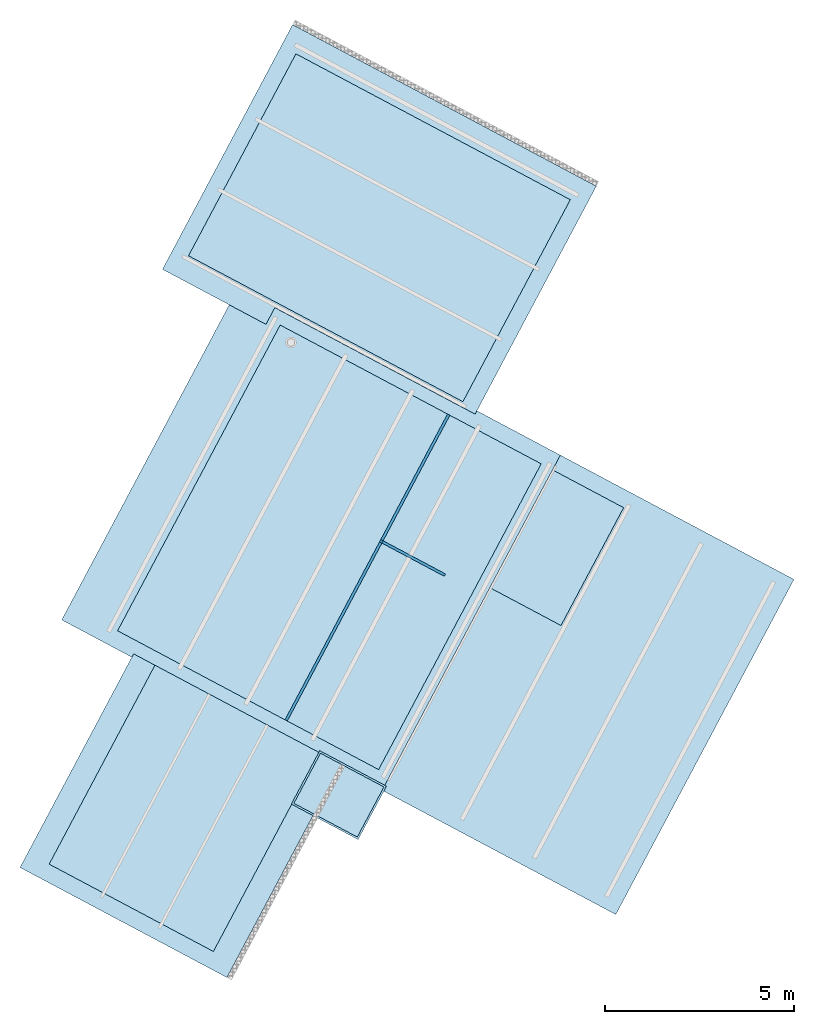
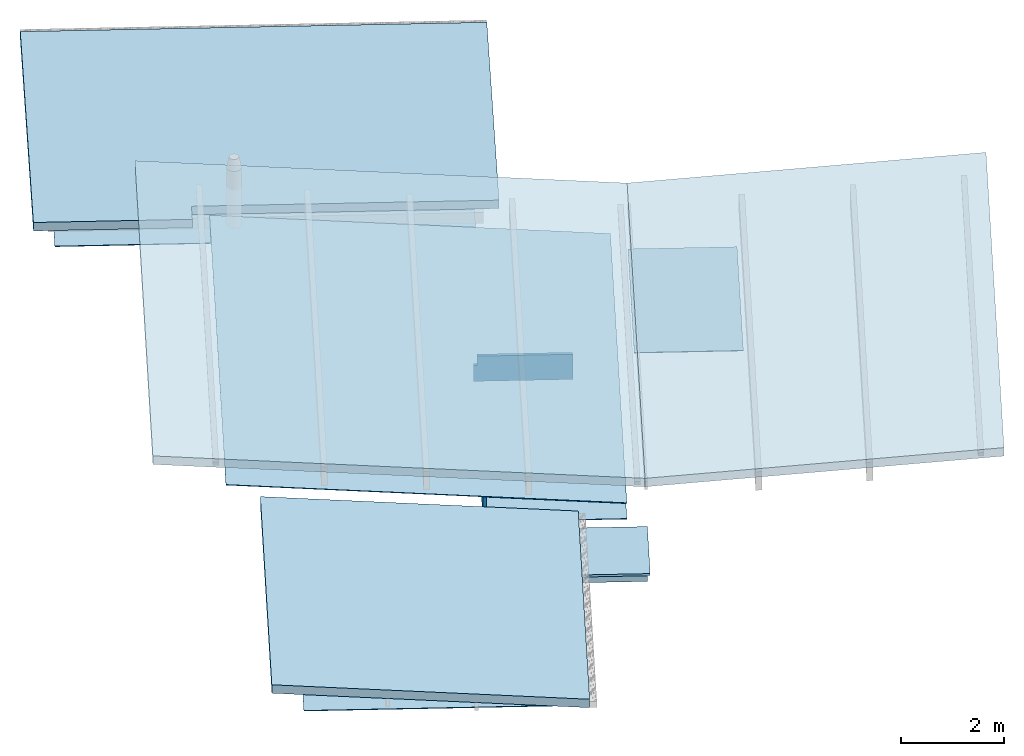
# One storey, part 1 of 4: 11 slabs, 2 walls.
"""IFC2X3 building model written with IfcOpenShell, lengths in metres."""

from ifc_helpers import new_model, entity, si_unit, converted_unit, derived_unit, money_unit, direction, frame, origin_with_axes, place, context, subcontext, project, spatial, polyline, outline, extrude, boolean, faceted_brep, material, layer, layer_set, layer_usage, type_object, element, save


model = new_model("IFC2X3")

# Units and contexts
model_context = context("Model", 3, precision=1e-05, world=origin_with_axes(), true_north=direction((0.0, 1.0)))
body_context = subcontext(model_context, "Body", "Model", "MODEL_VIEW")
ifc_project = project(units=[si_unit("LENGTHUNIT", "METRE"), si_unit("AREAUNIT", "SQUARE_METRE"), si_unit("VOLUMEUNIT", "CUBIC_METRE"), converted_unit("PLANEANGLEUNIT", "DEGREE", entity("IfcPlaneAngleMeasure", 0.0174532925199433), si_unit("PLANEANGLEUNIT", "RADIAN"), dimensions=[0, 0, 0, 0, 0, 0, 0]), money_unit("CHF"), converted_unit("TIMEUNIT", "Year", entity("IfcTimeMeasure", 31557600.0), si_unit("TIMEUNIT", "SECOND"), dimensions=[0, 0, 1, 0, 0, 0, 0]), si_unit("MASSUNIT", "GRAM", prefix="KILO"), si_unit("THERMODYNAMICTEMPERATUREUNIT", "DEGREE_CELSIUS"), si_unit("LUMINOUSINTENSITYUNIT", "LUMEN"), si_unit("ENERGYUNIT", "JOULE", prefix="MEGA"), derived_unit("THERMALCONDUCTANCEUNIT", [(si_unit("POWERUNIT", "WATT"), 1), (si_unit("LENGTHUNIT", "METRE"), -1), (si_unit("THERMODYNAMICTEMPERATUREUNIT", "KELVIN"), -1)]), derived_unit("SPECIFICHEATCAPACITYUNIT", [(si_unit("ENERGYUNIT", "JOULE"), 1), (si_unit("MASSUNIT", "GRAM", prefix="KILO"), -1), (si_unit("THERMODYNAMICTEMPERATUREUNIT", "KELVIN"), -1)]), derived_unit("MASSDENSITYUNIT", [(si_unit("MASSUNIT", "GRAM", prefix="KILO"), 1), (si_unit("VOLUMEUNIT", "CUBIC_METRE"), -1)])], contexts=[model_context])

# Site, building, storey
site_placement = place(None, frame((0.0, 0.0, 0.0), z_axis=(0.0, 0.0, 1.0), x_axis=(-0.4694715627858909, -0.8829475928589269, 0.0)))
site = spatial("IfcSite", under=ifc_project, at=site_placement, Name="Site", CompositionType="ELEMENT")
building_placement = place(site_placement, origin_with_axes())
building = spatial("IfcBuilding", under=site, at=building_placement, Name="Bâtiment", CompositionType="ELEMENT")
storey_placement = place(building_placement, frame((0.0, 0.0, 2.7), z_axis=(0.0, 0.0, 1.0), x_axis=(1.0, 0.0, 0.0)))
storey = spatial("IfcBuildingStorey", under=building, at=storey_placement, Name="toiture", CompositionType="ELEMENT", Elevation=2.7)

# Slabs
ifc_material_1 = material(Name="Hachure vide 3286431593")
ifc_layer_1 = layer(ifc_material_1, 0.015, ventilated="UNKNOWN")
ifc_layer_set_1 = layer_set([ifc_layer_1], Name="Hachure vide 3286431593 0.015")
ifc_layer_usage_1 = layer_usage(ifc_layer_set_1, "AXIS3", "NEGATIVE", 0.015)
slab_type_1 = type_object("IfcSlabType", Name="Hachure vide 3286431593 15", PredefinedType="FLOOR")
slab_1_placement = place(storey_placement, frame((143.5295710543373, -830.63459910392, -0.1850000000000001), z_axis=(0.0, 0.0, 1.0), x_axis=(1.0, 0.0, 0.0)))
element("IfcSlab", 1, at=slab_1_placement, inside=storey, type_object=slab_type_1, material=ifc_layer_usage_1, Name="terre plein", PredefinedType="FLOOR", context=body_context, shape_type="SweptSolid", body=[
    extrude(outline(polyline([(0.0, 0.0), (0.0, -4.919999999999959), (5.960000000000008, -4.919999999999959), (5.960000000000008, 0.0), (0.0, 0.0)])), frame((0.0, 0.0, -0.015), z_axis=(0.0, 0.0, 1.0), x_axis=(1.0, 0.0, 0.0)), (0.0, 0.0, 1.0), 0.015),
])
ifc_layer_usage_2 = layer_usage(ifc_layer_set_1, "AXIS3", "NEGATIVE", 0.015)
slab_2_placement = place(storey_placement, frame((137.5595710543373, -828.6945991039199, -0.1850000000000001), z_axis=(0.0, 0.0, 1.0), x_axis=(1.0, 0.0, 0.0)))
element("IfcSlab", 2, at=slab_2_placement, inside=storey, type_object=slab_type_1, material=ifc_layer_usage_2, Name="terre plein", PredefinedType="FLOOR", context=body_context, shape_type="SweptSolid", body=[
    extrude(outline(polyline([(0.0, 0.0), (0.0, 2.129999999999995), (-3.530000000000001, 2.129999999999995), (-3.530000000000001, 0.0), (0.0, 0.0)])), frame((0.0, 0.0, -0.015), z_axis=(0.0, 0.0, 1.0), x_axis=(1.0, 0.0, 0.0)), (0.0, 0.0, 1.0), 0.015),
])
ifc_layer_usage_3 = layer_usage(ifc_layer_set_1, "AXIS3", "NEGATIVE", 0.015)
slab_3_placement = place(storey_placement, frame((127.4995710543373, -831.63459910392, -0.1850000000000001), z_axis=(0.0, 0.0, 1.0), x_axis=(1.0, 0.0, 0.0)))
element("IfcSlab", 3, at=slab_3_placement, inside=storey, type_object=slab_type_1, material=ifc_layer_usage_3, Name="terre plein", PredefinedType="FLOOR", context=body_context, shape_type="SweptSolid", body=[
    extrude(outline(polyline([(0.0, 0.0), (0.0, -8.219999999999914), (6.049999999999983, -8.219999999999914), (6.049999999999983, 0.0), (0.0, 0.0)])), frame((0.0, 0.0, -0.015), z_axis=(0.0, 0.0, 1.0), x_axis=(1.0, 0.0, 0.0)), (0.0, 0.0, 1.0), 0.015),
])
ifc_layer_usage_4 = layer_usage(ifc_layer_set_1, "AXIS3", "NEGATIVE", 0.015)
slab_4_placement = place(storey_placement, frame((143.1895710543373, -829.03459910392, -0.1850000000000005), z_axis=(0.0, 0.0, 1.0), x_axis=(1.0, 0.0, 0.0)))
element("IfcSlab", 4, at=slab_4_placement, inside=storey, type_object=slab_type_1, material=ifc_layer_usage_4, Name="terre plein", PredefinedType="FLOOR", context=body_context, shape_type="SweptSolid", body=[
    extrude(outline(polyline([(0.0, 0.0), (-9.159999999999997, 0.0), (-9.159999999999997, -2.805789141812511), (0.0, -2.805789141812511), (0.0, 0.0)])), frame((0.0, 0.0, -0.015), z_axis=(0.0, 0.0, 1.0), x_axis=(1.0, 0.0, 0.0)), (0.0, 0.0, 1.0), 0.015),
])
ifc_material_2 = material(Name="Lame d'air 3030760239")
ifc_layer_2 = layer(ifc_material_2, 0.01495222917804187, ventilated="UNKNOWN")
ifc_layer_set_2 = layer_set([ifc_layer_2], Name="Lame d'air 3030760239 0.0149522")
ifc_layer_usage_5 = layer_usage(ifc_layer_set_2, "AXIS3", "NEGATIVE", 0.01495222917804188)
slab_type_2 = type_object("IfcSlabType", Name="Lame d'air 3030760239 15", PredefinedType="ROOF")
slab_5_placement = place(storey_placement, frame((144.2695710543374, -829.03459910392, 0.1744000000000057), z_axis=(0.0, 0.0, 1.0), x_axis=(1.0, 0.0, 0.0)))
element("IfcSlab", 5, at=slab_5_placement, inside=storey, type_object=slab_type_2, material=ifc_layer_usage_5, Name="Tpan-09", PredefinedType="ROOF", context=body_context, shape_type="SweptSolid", body=[
    extrude(outline(polyline([(-1.080000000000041, 0.0), (-10.24000000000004, 0.0), (-10.24000000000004, -7.84498408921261), (-1.080000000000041, -7.84498408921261), (-1.080000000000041, 0.0)])), frame((0.0, 0.0, 0.0), z_axis=(0.0, 0.07974522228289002, 0.9968152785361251), x_axis=(1.0, 0.0, 0.0)), (0.0, -0.07974522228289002, 0.9968152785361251), 0.015),
])
ifc_layer_3 = layer(ifc_material_2, 0.2, ventilated="UNKNOWN")
ifc_layer_set_3 = layer_set([ifc_layer_3], Name="Lame d'air 3030760239 0.2")
ifc_layer_usage_6 = layer_usage(ifc_layer_set_3, "AXIS3", "NEGATIVE", 0.2)
slab_type_3 = type_object("IfcSlabType", Name="Lame d'air 3030760239 200", PredefinedType="ROOF")
slab_6_placement = place(storey_placement, frame((149.8295710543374, -830.29459910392, 0.08000000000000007), z_axis=(0.0, 0.0, 1.0), x_axis=(1.0, 0.0, 0.0)))
element("IfcSlab", 6, at=slab_6_placement, inside=storey, type_object=slab_type_3, material=ifc_layer_usage_6, Name="Tpan-09", PredefinedType="ROOF", context=body_context, shape_type="SweptSolid", body=[
    extrude(outline(polyline([(0.09999999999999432, 0.3009584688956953), (-6.300000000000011, 0.3009584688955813), (-6.300000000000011, -5.918849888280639), (0.09999999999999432, -5.918849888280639), (0.09999999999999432, 0.3009584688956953)])), frame((0.0, 0.0, 0.0), z_axis=(0.0, 0.07974522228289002, 0.9968152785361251), x_axis=(1.0, 0.0, 0.0)), (0.0, -0.07974522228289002, 0.9968152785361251), 0.2006389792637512),
])
ifc_layer_usage_7 = layer_usage(ifc_layer_set_3, "AXIS3", "NEGATIVE", 0.2)
slab_7_placement = place(storey_placement, frame((127.2252789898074, -831.3171641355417, 0.08000000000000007), z_axis=(0.0, 0.0, 1.0), x_axis=(0.0, 1.0, 0.0)))
element("IfcSlab", 7, at=slab_7_placement, inside=storey, type_object=slab_type_3, material=ifc_layer_usage_7, Name="Tpan-09", PredefinedType="ROOF", context=body_context, shape_type="SweptSolid", body=[
    extrude(outline(polyline([(0.1225650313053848, 0.3668683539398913), (-8.97743240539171, 0.3675945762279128), (-8.977435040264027, -6.986542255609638), (-5.877434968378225, -6.986542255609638), (-5.877434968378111, -6.48494480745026), (0.1225650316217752, -6.484944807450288), (0.1225650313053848, 0.3668683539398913)])), frame((0.0, 0.0, 0.0), z_axis=(0.0, 0.07974522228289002, 0.9968152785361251), x_axis=(1.0, 0.0, 0.0)), (0.0, -0.07974522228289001, 0.9968152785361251), 0.2006389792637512),
])
ifc_layer_usage_8 = layer_usage(ifc_layer_set_3, "AXIS3", "NEGATIVE", 0.2)
slab_8_placement = place(storey_placement, frame((147.4380898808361, -827.7945991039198, 0.9439999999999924), z_axis=(0.0, 0.0, 1.0), x_axis=(-1.0, 0.0, 0.0)))
element("IfcSlab", 8, at=slab_8_placement, inside=storey, type_object=slab_type_3, material=ifc_layer_usage_8, Name="Tpan-09", PredefinedType="ROOF", context=body_context, shape_type="SweptSolid", body=[
    extrude(outline(polyline([(3.808518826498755, 0.9028754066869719), (3.808518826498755, -6.11948886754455), (13.84851882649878, -6.11948886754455), (13.84851882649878, 0.9028754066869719), (3.808518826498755, 0.9028754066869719)])), frame((0.0, 0.0, 0.0), z_axis=(0.0, 0.07974522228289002, 0.9968152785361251), x_axis=(1.0, 0.0, 0.0)), (0.0, -0.07974522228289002, 0.9968152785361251), 0.2006389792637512),
])
ifc_layer_4 = layer(ifc_material_2, 0.2003598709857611, ventilated="UNKNOWN")
ifc_layer_set_4 = layer_set([ifc_layer_4], Name="Lame d'air 3030760239 0.20036")
ifc_layer_usage_9 = layer_usage(ifc_layer_set_4, "AXIS3", "NEGATIVE", 0.2003598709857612)
slab_9_placement = place(storey_placement, frame((143.8295710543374, -828.79459910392, 0.8799999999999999), z_axis=(0.0, 0.0, 1.0), x_axis=(1.0, 0.0, 0.0)))
element("IfcSlab", 9, at=slab_9_placement, inside=storey, type_object=slab_type_3, material=ifc_layer_usage_9, Name="Tpan-09", PredefinedType="ROOF", context=body_context, shape_type="SweptSolid", body=[
    extrude(outline(polyline([(-0.2000000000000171, 0.1003194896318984), (-10.24000000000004, 0.1003194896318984), (-10.24000000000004, -9.53035151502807), (-0.2000000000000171, -9.53035151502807), (-0.2000000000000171, 0.1003194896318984)])), frame((0.0, 0.0, 0.0), z_axis=(0.0, 0.07974522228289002, 0.9968152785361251), x_axis=(1.0, 0.0, 0.0)), (0.0, -0.07974522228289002, 0.9968152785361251), 0.201),
])
ifc_material_3 = material(Name="Isolation 288766638")
ifc_layer_5 = layer(ifc_material_3, 0.04999999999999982, ventilated="UNKNOWN")
ifc_layer_set_5 = layer_set([ifc_layer_5], Name="Isolation 288766638 0.05")
ifc_layer_usage_10 = layer_usage(ifc_layer_set_5, "AXIS3", "NEGATIVE", 0.04999999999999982)
slab_type_4 = type_object("IfcSlabType", Name="Isolation 288766638 50", PredefinedType="FLOOR")
slab_10_placement = place(storey_placement, frame((143.4795710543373, -830.64459910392, -0.1800000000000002), z_axis=(0.0, 0.0, 1.0), x_axis=(1.0, 0.0, 0.0)))
element("IfcSlab", 10, at=slab_10_placement, inside=storey, type_object=slab_type_4, material=ifc_layer_usage_10, Name="terre plein", PredefinedType="FLOOR", context=body_context, shape_type="SweptSolid", body=[
    extrude(outline(polyline([(0.0, 0.0), (1.600000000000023, 0.0), (1.600000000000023, 2.0), (0.0, 2.0), (0.0, 0.0)])), frame((0.0, 0.0, -0.04999999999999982), z_axis=(0.0, 0.0, 1.0), x_axis=(1.0, 0.0, 0.0)), (0.0, 0.0, 1.0), 0.04999999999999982),
])
ifc_layer_6 = layer(ifc_material_3, 0.2000000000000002, ventilated="UNKNOWN")
ifc_layer_set_6 = layer_set([ifc_layer_6], Name="Isolation 288766638 0.2")
ifc_layer_usage_11 = layer_usage(ifc_layer_set_6, "AXIS3", "NEGATIVE", 0.2000000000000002)
slab_type_5 = type_object("IfcSlabType", Name="Isolation 288766638 200", PredefinedType="FLOOR")
slab_11_placement = place(storey_placement, frame((143.5295710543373, -830.5945991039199, -0.2000000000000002), z_axis=(0.0, 0.0, 1.0), x_axis=(1.0, 0.0, 0.0)))
element("IfcSlab", 11, at=slab_11_placement, inside=storey, type_object=slab_type_5, material=ifc_layer_usage_11, Name="terre plein", PredefinedType="FLOOR", context=body_context, shape_type="SweptSolid", body=[
    extrude(outline(polyline([(0.0, 0.0), (1.5, 0.0), (1.5, 1.899999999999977), (0.0, 1.899999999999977), (0.0, 0.0)])), frame((0.0, 0.0, -0.2000000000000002), z_axis=(0.0, 0.0, 1.0), x_axis=(1.0, 0.0, 0.0)), (0.0, 0.0, 1.0), 0.2000000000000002),
])

# Walls
ifc_material_4 = material(Name="Isolation 269295175")
ifc_layer_7 = layer(ifc_material_4, 0.07, ventilated="UNKNOWN")
ifc_layer_set_7 = layer_set([ifc_layer_7], Name="CLOISON 7 0024849982")
ifc_layer_usage_12 = layer_usage(ifc_layer_set_7, "AXIS2", "POSITIVE", 0.0)
wall_type = type_object("IfcWallType", Name="CLOISON 7 0024849982 70", PredefinedType="NOTDEFINED")
wall_1_placement = place(storey_placement, frame((134.0295710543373, -831.8403882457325, -0.2000000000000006), z_axis=(0.0, 0.0, 1.0), x_axis=(1.0, 0.0, 0.0)))
element("IfcWallStandardCase", 12, at=wall_1_placement, inside=storey, type_object=wall_type, material=ifc_layer_usage_12, Name="Mur-396", context=body_context, shape_type="SweptSolid", body=[
    extrude(outline(polyline([(0.0, 0.0), (9.159999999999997, 0.0), (9.159999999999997, 0.07000000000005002), (0.0, 0.07000000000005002), (0.0, 0.0)])), origin_with_axes(), (0.0, 0.0, 1.0), 0.5988631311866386),
])
wall_2_placement = place(storey_placement, frame((137.7895710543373, -831.8403882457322, -0.5826804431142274), z_axis=(0.0, 0.0, 1.0), x_axis=(0.0, 1.0, 0.0)))
element("IfcWall", 13, at=wall_2_placement, inside=storey, type_object=wall_type, material=ifc_material_4, Name="Mur-396", context=body_context, shape_type="CSG", body=[
    boolean("DIFFERENCE", extrude(outline(polyline([(0.0, -0.06999999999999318), (1.937396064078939, -0.06999999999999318), (1.937396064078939, 0.0), (0.0, 0.0), (0.0, -0.06999999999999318)])), origin_with_axes(), (0.0, 0.0, 1.0), 0.598863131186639), faceted_brep([(0.0, -0.06999999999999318, 0.3826804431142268), (0.06999999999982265, -0.06999999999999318, 0.3826804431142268), (0.06999999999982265, -0.06999999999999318, 0.598863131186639), (0.0, -0.06999999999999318, 0.598863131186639), (0.0, 0.0, 0.3826804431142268), (0.06999999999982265, 0.0, 0.3826804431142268), (0.06999999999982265, 0.0, 0.598863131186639), (0.0, 0.0, 0.598863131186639)], [[[0, 1, 2, 3]], [[1, 0, 4, 5]], [[6, 2, 1, 5]], [[2, 6, 7, 3]], [[4, 0, 3, 7]], [[5, 4, 7, 6]]])),
])

save(model, "model.ifc")
